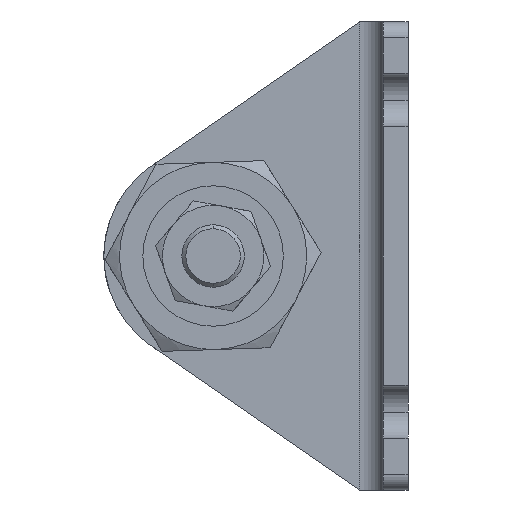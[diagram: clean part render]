
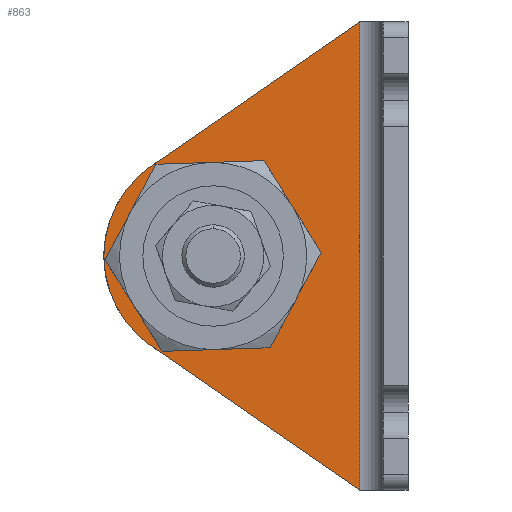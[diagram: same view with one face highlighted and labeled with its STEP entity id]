
A CAD part, left-side view. The second image highlights one B-rep face of the part: STEP entity #863.
In plain terms, the highlighted planar face has unit normal (-1, 0, 0) as drawn and (1, 0, 0) by its records, which use the part's own axes.
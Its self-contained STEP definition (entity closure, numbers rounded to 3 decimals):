
#12 = PLANE ( 'NONE',  #2145 ) ;
#49 = CARTESIAN_POINT ( 'NONE',  ( 3.2, 25., -30. ) ) ;
#88 = VERTEX_POINT ( 'NONE', #900 ) ;
#106 = DIRECTION ( 'NONE',  ( 1., 0., 0. ) ) ;
#157 = LINE ( 'NONE', #867, #1664 ) ;
#171 = ORIENTED_EDGE ( 'NONE', *, *, #2426, .F. ) ;
#203 = VERTEX_POINT ( 'NONE', #737 ) ;
#253 = LINE ( 'NONE', #1669, #836 ) ;
#268 = EDGE_CURVE ( 'NONE', #1687, #2485, #3443, .T. ) ;
#306 = ORIENTED_EDGE ( 'NONE', *, *, #2929, .T. ) ;
#436 = AXIS2_PLACEMENT_3D ( 'NONE', #602, #3115, #2799 ) ;
#602 = CARTESIAN_POINT ( 'NONE',  ( 3.2, 25., -30. ) ) ;
#606 = CARTESIAN_POINT ( 'NONE',  ( 3.2, 3.2, -60. ) ) ;
#670 = ORIENTED_EDGE ( 'NONE', *, *, #2340, .F. ) ;
#689 = CARTESIAN_POINT ( 'NONE',  ( 3.2, 15.5, -30. ) ) ;
#693 = EDGE_LOOP ( 'NONE', ( #3608, #1601, #1573, #171, #306 ) ) ;
#727 = CARTESIAN_POINT ( 'NONE',  ( 3.2, 25., -30. ) ) ;
#737 = CARTESIAN_POINT ( 'NONE',  ( 3.2, 6.2, 0. ) ) ;
#834 = ORIENTED_EDGE ( 'NONE', *, *, #2156, .F. ) ;
#836 = VECTOR ( 'NONE', #1694, 1000. ) ;
#863 = ADVANCED_FACE ( 'NONE', ( #1537, #3191 ), #12, .T. ) ;
#867 = CARTESIAN_POINT ( 'NONE',  ( 3.2, 6.2, -60. ) ) ;
#895 = AXIS2_PLACEMENT_3D ( 'NONE', #727, #106, #3162 ) ;
#900 = CARTESIAN_POINT ( 'NONE',  ( 3.2, 32.956, -18.481 ) ) ;
#922 = DIRECTION ( 'NONE',  ( 0., 1., 0. ) ) ;
#970 = EDGE_CURVE ( 'NONE', #3379, #88, #2703, .T. ) ;
#1001 = VERTEX_POINT ( 'NONE', #689 ) ;
#1537 = FACE_BOUND ( 'NONE', #3330, .T. ) ;
#1573 = ORIENTED_EDGE ( 'NONE', *, *, #970, .T. ) ;
#1601 = ORIENTED_EDGE ( 'NONE', *, *, #3435, .T. ) ;
#1629 = VECTOR ( 'NONE', #2909, 1000. ) ;
#1664 = VECTOR ( 'NONE', #3332, 1000. ) ;
#1669 = CARTESIAN_POINT ( 'NONE',  ( 3.2, 32.226, -17.976 ) ) ;
#1687 = VERTEX_POINT ( 'NONE', #3152 ) ;
#1694 = DIRECTION ( 'NONE',  ( 0., 0.823, -0.568 ) ) ;
#1843 = AXIS2_PLACEMENT_3D ( 'NONE', #49, #3779, #2579 ) ;
#2145 = AXIS2_PLACEMENT_3D ( 'NONE', #606, #2785, #922 ) ;
#2156 = EDGE_CURVE ( 'NONE', #3615, #1001, #2511, .T. ) ;
#2300 = CARTESIAN_POINT ( 'NONE',  ( 3.2, 32.956, -41.519 ) ) ;
#2340 = EDGE_CURVE ( 'NONE', #1001, #3615, #3854, .T. ) ;
#2405 = CARTESIAN_POINT ( 'NONE',  ( 3.2, 39., -30. ) ) ;
#2426 = EDGE_CURVE ( 'NONE', #203, #88, #253, .T. ) ;
#2485 = VERTEX_POINT ( 'NONE', #2300 ) ;
#2511 = CIRCLE ( 'NONE', #3959, 9.5 ) ;
#2574 = CARTESIAN_POINT ( 'NONE',  ( 3.2, 4.169, -61.403 ) ) ;
#2579 = DIRECTION ( 'NONE',  ( 0., 1., 0. ) ) ;
#2703 = CIRCLE ( 'NONE', #1843, 14. ) ;
#2785 = DIRECTION ( 'NONE',  ( 1., 0., 0. ) ) ;
#2799 = DIRECTION ( 'NONE',  ( 0., 1., 0. ) ) ;
#2819 = DIRECTION ( 'NONE',  ( 0., 1., 0. ) ) ;
#2877 = CIRCLE ( 'NONE', #436, 14. ) ;
#2909 = DIRECTION ( 'NONE',  ( 0., 0.823, 0.568 ) ) ;
#2929 = EDGE_CURVE ( 'NONE', #203, #1687, #157, .T. ) ;
#3099 = CARTESIAN_POINT ( 'NONE',  ( 3.2, 25., -30. ) ) ;
#3115 = DIRECTION ( 'NONE',  ( 1., 0., 0. ) ) ;
#3152 = CARTESIAN_POINT ( 'NONE',  ( 3.2, 6.2, -60. ) ) ;
#3162 = DIRECTION ( 'NONE',  ( 0., 1., 0. ) ) ;
#3191 = FACE_OUTER_BOUND ( 'NONE', #693, .T. ) ;
#3310 = CARTESIAN_POINT ( 'NONE',  ( 3.2, 34.5, -30. ) ) ;
#3330 = EDGE_LOOP ( 'NONE', ( #834, #670 ) ) ;
#3332 = DIRECTION ( 'NONE',  ( 0., 0., -1. ) ) ;
#3379 = VERTEX_POINT ( 'NONE', #2405 ) ;
#3435 = EDGE_CURVE ( 'NONE', #2485, #3379, #2877, .T. ) ;
#3443 = LINE ( 'NONE', #2574, #1629 ) ;
#3608 = ORIENTED_EDGE ( 'NONE', *, *, #268, .T. ) ;
#3615 = VERTEX_POINT ( 'NONE', #3310 ) ;
#3764 = DIRECTION ( 'NONE',  ( 1., 0., 0. ) ) ;
#3779 = DIRECTION ( 'NONE',  ( 1., 0., 0. ) ) ;
#3854 = CIRCLE ( 'NONE', #895, 9.5 ) ;
#3959 = AXIS2_PLACEMENT_3D ( 'NONE', #3099, #3764, #2819 ) ;
